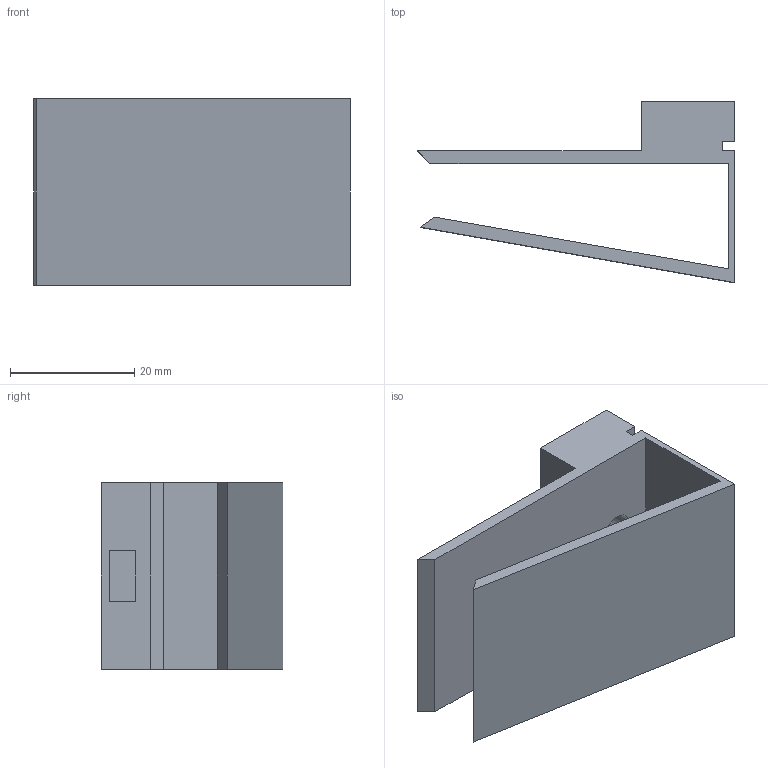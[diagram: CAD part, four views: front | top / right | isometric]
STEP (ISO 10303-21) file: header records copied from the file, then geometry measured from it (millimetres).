
FILE_DESCRIPTION(/* description */ (''),/* implementation_level */ '2;1');
FILE_NAME(/* name */ 'Adapter_2v2_kuchnia v6.step',/* time_stamp */ '2026-04-10T14:20:30+02:00',/* author */ (''),/* organization */ (''),/* preprocessor_version */ 'ST-DEVELOPER v20.1',/* originating_system */ 'Autodesk Translation Framework v14.24.0.0',/* authorisation */ '');
FILE_SCHEMA (('AUTOMOTIVE_DESIGN { 1 0 10303 214 3 1 1 }'));
Length unit declared in the file: millimetre
Products named in the file (1): (Niezapisany)
Bounding box: 51 x 29.21 x 30 mm (x, y, z)
Volume: 9483.1 mm3; surface area: 8838.7 mm2
Topology: 1 solids, 1 shells, 23 faces, 60 edges, 40 vertices
Faces by surface type: plane 21, cylinder 2
Full cylindrical faces by diameter (mm): 5.5 x2
Entity records: 739 total; most frequent: CARTESIAN_POINT 124, ORIENTED_EDGE 120, DIRECTION 112, EDGE_CURVE 60, LINE 56, VECTOR 56, VERTEX_POINT 40, EDGE_LOOP 28
